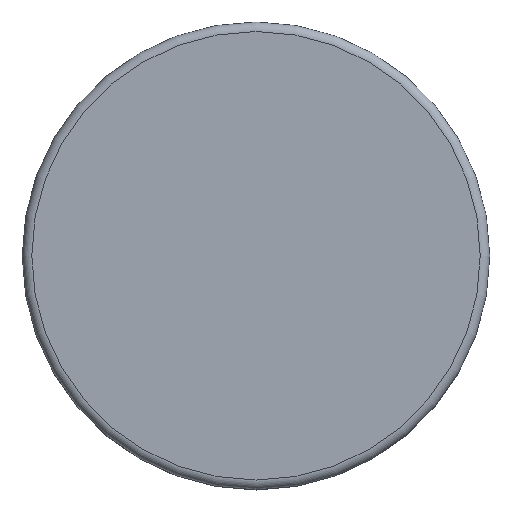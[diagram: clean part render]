
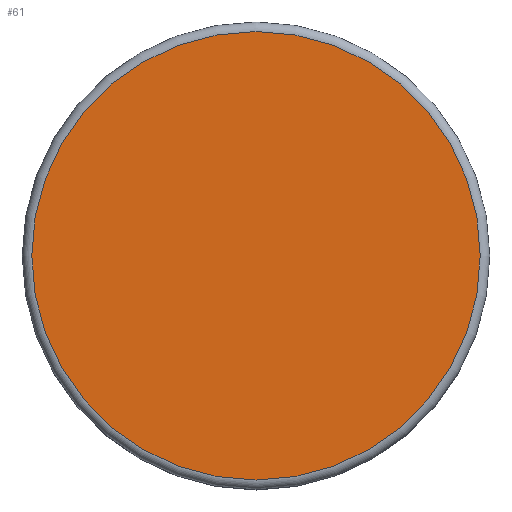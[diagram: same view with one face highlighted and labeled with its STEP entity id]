
A CAD part, top view. The second image highlights one B-rep face of the part: STEP entity #61.
In plain terms, the highlighted planar face has unit normal (0, 0, 1).
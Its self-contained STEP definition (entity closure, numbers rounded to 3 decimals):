
#61 = ADVANCED_FACE( '', ( #123 ), #124, .F. );
#123 = FACE_OUTER_BOUND( '', #176, .T. );
#124 = PLANE( '', #177 );
#176 = EDGE_LOOP( '', ( #265 ) );
#177 = AXIS2_PLACEMENT_3D( '', #266, #267, #268 );
#265 = ORIENTED_EDGE( '', *, *, #282, .F. );
#266 = CARTESIAN_POINT( '', ( 0., 0., 35. ) );
#267 = DIRECTION( '', ( 0., 0., -1. ) );
#268 = DIRECTION( '', ( -1., 0., 0. ) );
#282 = EDGE_CURVE( '', #324, #324, #325, .T. );
#324 = VERTEX_POINT( '', #375 );
#325 = CIRCLE( '', #376, 23.5 );
#375 = CARTESIAN_POINT( '', ( -23.5, 0., 35. ) );
#376 = AXIS2_PLACEMENT_3D( '', #425, #426, #427 );
#425 = CARTESIAN_POINT( '', ( 0., 0., 35. ) );
#426 = DIRECTION( '', ( 0., 0., -1. ) );
#427 = DIRECTION( '', ( -1., 0., 0. ) );
